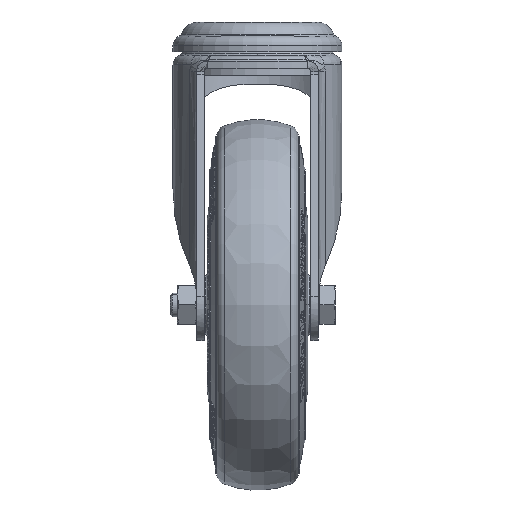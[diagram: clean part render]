
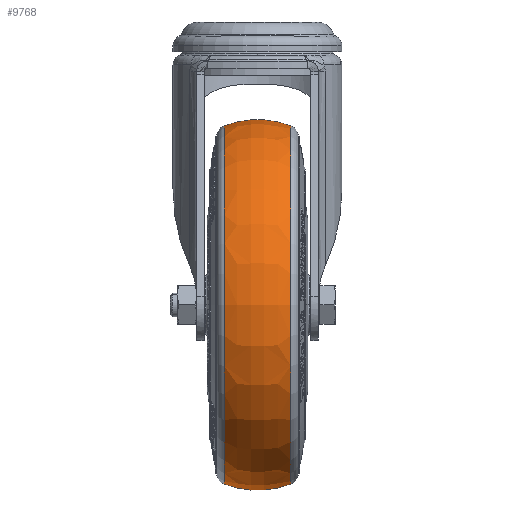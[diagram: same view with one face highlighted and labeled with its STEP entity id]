
A CAD part, top view. The second image highlights one B-rep face of the part: STEP entity #9768.
In plain terms, the highlighted toroidal (fillet/blend) face has major radius 31.25 mm and minor radius 31.25 mm.
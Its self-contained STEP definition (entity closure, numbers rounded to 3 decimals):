
#716 = CIRCLE ( 'NONE', #28452, 31.25 ) ;
#850 = VERTEX_POINT ( 'NONE', #88105 ) ;
#5653 = DIRECTION ( 'NONE',  ( 1., 0., 0. ) ) ;
#7702 = CARTESIAN_POINT ( 'NONE',  ( 0., 0., 0. ) ) ;
#9768 = ADVANCED_FACE ( 'NONE', ( #36759 ), #60866, .T. ) ;
#9957 = DIRECTION ( 'NONE',  ( 0., -1., 0. ) ) ;
#11338 = AXIS2_PLACEMENT_3D ( 'NONE', #65772, #5653, #113554 ) ;
#15102 = CARTESIAN_POINT ( 'NONE',  ( 11.228, 0., 60.413 ) ) ;
#19804 = ORIENTED_EDGE ( 'NONE', *, *, #64188, .F. ) ;
#23460 = AXIS2_PLACEMENT_3D ( 'NONE', #80273, #83894, #128049 ) ;
#28452 = AXIS2_PLACEMENT_3D ( 'NONE', #109329, #62076, #132702 ) ;
#36759 = FACE_OUTER_BOUND ( 'NONE', #137033, .T. ) ;
#44816 = EDGE_CURVE ( 'NONE', #69386, #105025, #98558, .T. ) ;
#60866 = TOROIDAL_SURFACE ( 'NONE', #64315, 31.25, 31.25 ) ;
#62076 = DIRECTION ( 'NONE',  ( 0., 1., 0. ) ) ;
#64188 = EDGE_CURVE ( 'NONE', #850, #69386, #117399, .T. ) ;
#64315 = AXIS2_PLACEMENT_3D ( 'NONE', #7702, #65287, #138452 ) ;
#65287 = DIRECTION ( 'NONE',  ( 1., 0., 0. ) ) ;
#65772 = CARTESIAN_POINT ( 'NONE',  ( 11.228, 0., 0. ) ) ;
#69386 = VERTEX_POINT ( 'NONE', #130870 ) ;
#70095 = AXIS2_PLACEMENT_3D ( 'NONE', #79488, #9957, #127777 ) ;
#79488 = CARTESIAN_POINT ( 'NONE',  ( 0., 0., -31.25 ) ) ;
#80273 = CARTESIAN_POINT ( 'NONE',  ( -11.228, 0., 0. ) ) ;
#83894 = DIRECTION ( 'NONE',  ( 1., 0., 0. ) ) ;
#87663 = VERTEX_POINT ( 'NONE', #122445 ) ;
#88105 = CARTESIAN_POINT ( 'NONE',  ( -11.228, 0., -60.413 ) ) ;
#98558 = CIRCLE ( 'NONE', #11338, 60.413 ) ;
#105025 = VERTEX_POINT ( 'NONE', #15102 ) ;
#108531 = CIRCLE ( 'NONE', #23460, 60.413 ) ;
#109329 = CARTESIAN_POINT ( 'NONE',  ( 0., 0., 31.25 ) ) ;
#113554 = DIRECTION ( 'NONE',  ( 0., 0., -1. ) ) ;
#116262 = EDGE_CURVE ( 'NONE', #850, #87663, #108531, .T. ) ;
#116339 = EDGE_CURVE ( 'NONE', #87663, #105025, #716, .T. ) ;
#117399 = CIRCLE ( 'NONE', #70095, 31.25 ) ;
#118269 = ORIENTED_EDGE ( 'NONE', *, *, #116339, .T. ) ;
#122445 = CARTESIAN_POINT ( 'NONE',  ( -11.228, 0., 60.413 ) ) ;
#126944 = ORIENTED_EDGE ( 'NONE', *, *, #116262, .T. ) ;
#127777 = DIRECTION ( 'NONE',  ( -0.359, 0., -0.933 ) ) ;
#128049 = DIRECTION ( 'NONE',  ( 0., 0., -1. ) ) ;
#130870 = CARTESIAN_POINT ( 'NONE',  ( 11.228, 0., -60.413 ) ) ;
#132702 = DIRECTION ( 'NONE',  ( -0.359, 0., 0.933 ) ) ;
#132969 = ORIENTED_EDGE ( 'NONE', *, *, #44816, .F. ) ;
#137033 = EDGE_LOOP ( 'NONE', ( #126944, #118269, #132969, #19804 ) ) ;
#138452 = DIRECTION ( 'NONE',  ( 0., 0., -1. ) ) ;
